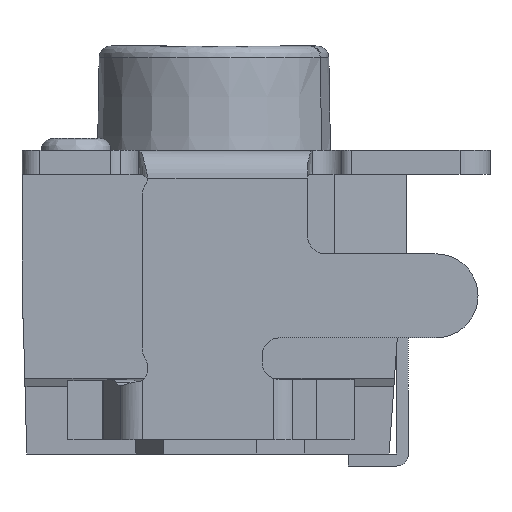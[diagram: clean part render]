
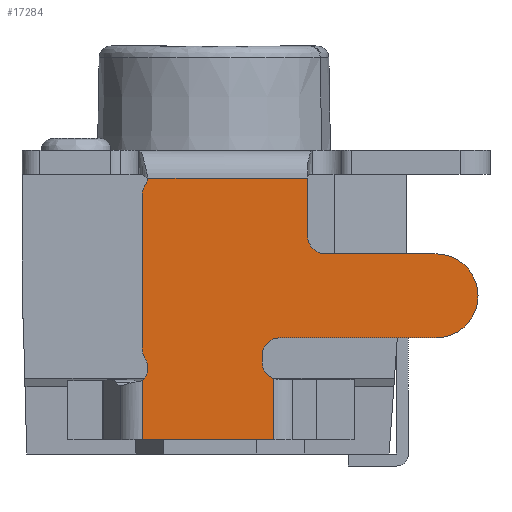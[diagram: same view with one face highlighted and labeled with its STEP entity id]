
A CAD part, left-side view. The second image highlights one B-rep face of the part: STEP entity #17284.
In plain terms, the highlighted planar face has unit normal (-1, 0, 0).
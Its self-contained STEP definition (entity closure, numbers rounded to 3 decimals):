
#155 = EDGE_CURVE ( 'NONE', #6565, #3358, #18055, .T. ) ;
#282 = LINE ( 'NONE', #4921, #12745 ) ;
#387 = AXIS2_PLACEMENT_3D ( 'NONE', #13754, #10978, #3204 ) ;
#509 = DIRECTION ( 'NONE',  ( 0., 0., -1. ) ) ;
#621 = ORIENTED_EDGE ( 'NONE', *, *, #4299, .F. ) ;
#743 = CARTESIAN_POINT ( 'NONE',  ( -2.25, -0.5, -1.762 ) ) ;
#782 = VECTOR ( 'NONE', #17943, 1000. ) ;
#949 = CARTESIAN_POINT ( 'NONE',  ( -2.25, 0.6, -0.378 ) ) ;
#1138 = VERTEX_POINT ( 'NONE', #7043 ) ;
#1298 = EDGE_CURVE ( 'NONE', #15928, #14122, #282, .T. ) ;
#1551 = DIRECTION ( 'NONE',  ( 1., 0., 0. ) ) ;
#1560 = EDGE_CURVE ( 'NONE', #1138, #2148, #19034, .T. ) ;
#1585 = CARTESIAN_POINT ( 'NONE',  ( -2.25, 1.368, -0.23 ) ) ;
#1771 = DIRECTION ( 'NONE',  ( 0., 0., -1. ) ) ;
#1906 = VERTEX_POINT ( 'NONE', #12778 ) ;
#2012 = DIRECTION ( 'NONE',  ( 0., 0., -1. ) ) ;
#2148 = VERTEX_POINT ( 'NONE', #6851 ) ;
#2194 = CARTESIAN_POINT ( 'NONE',  ( -2.25, -0.55, -1.712 ) ) ;
#2237 = CARTESIAN_POINT ( 'NONE',  ( -2.25, -0.55, -1.562 ) ) ;
#2294 = DIRECTION ( 'NONE',  ( 1., 0., 0. ) ) ;
#2421 = VECTOR ( 'NONE', #16162, 1000. ) ;
#2486 = EDGE_CURVE ( 'NONE', #1906, #3358, #16271, .T. ) ;
#2533 = AXIS2_PLACEMENT_3D ( 'NONE', #8309, #5150, #509 ) ;
#2593 = DIRECTION ( 'NONE',  ( 1., 0., 0. ) ) ;
#2663 = CARTESIAN_POINT ( 'NONE',  ( -2.25, 0.575, -0.295 ) ) ;
#2973 = LINE ( 'NONE', #1585, #18529 ) ;
#3065 = DIRECTION ( 'NONE',  ( 0., 0., -1. ) ) ;
#3204 = DIRECTION ( 'NONE',  ( 0., 0., -1. ) ) ;
#3358 = VERTEX_POINT ( 'NONE', #6027 ) ;
#3442 = EDGE_CURVE ( 'NONE', #16659, #15201, #7381, .T. ) ;
#3596 = VECTOR ( 'NONE', #3065, 1000. ) ;
#3706 = CARTESIAN_POINT ( 'NONE',  ( -2.25, -0.78, -0.23 ) ) ;
#3774 = VERTEX_POINT ( 'NONE', #4394 ) ;
#3858 = DIRECTION ( 'NONE',  ( 0., 0., -1. ) ) ;
#3961 = EDGE_CURVE ( 'NONE', #4811, #12966, #17868, .T. ) ;
#4061 = DIRECTION ( 'NONE',  ( 0., 0., -1. ) ) ;
#4225 = CARTESIAN_POINT ( 'NONE',  ( -2.25, -2.2, -0.862 ) ) ;
#4251 = DIRECTION ( 'NONE',  ( 1., 0., 0. ) ) ;
#4256 = CARTESIAN_POINT ( 'NONE',  ( -2.25, -0.55, -1.762 ) ) ;
#4299 = EDGE_CURVE ( 'NONE', #4811, #15556, #4584, .T. ) ;
#4362 = EDGE_CURVE ( 'NONE', #6565, #3774, #17906, .T. ) ;
#4394 = CARTESIAN_POINT ( 'NONE',  ( -2.25, -0.55, -1.562 ) ) ;
#4533 = CARTESIAN_POINT ( 'NONE',  ( -2.25, -0.4, -1.762 ) ) ;
#4584 = CIRCLE ( 'NONE', #7118, 0.15 ) ;
#4804 = VERTEX_POINT ( 'NONE', #2663 ) ;
#4811 = VERTEX_POINT ( 'NONE', #8673 ) ;
#4921 = CARTESIAN_POINT ( 'NONE',  ( -2.25, -0.78, -0.712 ) ) ;
#4923 = CIRCLE ( 'NONE', #15951, 0.15 ) ;
#4994 = DIRECTION ( 'NONE',  ( 0., 0., -1. ) ) ;
#5126 = VECTOR ( 'NONE', #15837, 1000. ) ;
#5150 = DIRECTION ( 'NONE',  ( 1., 0., 0. ) ) ;
#5295 = EDGE_CURVE ( 'NONE', #16509, #4804, #7826, .T. ) ;
#5378 = EDGE_CURVE ( 'NONE', #16509, #15928, #2973, .T. ) ;
#5516 = ORIENTED_EDGE ( 'NONE', *, *, #5295, .T. ) ;
#5888 = VECTOR ( 'NONE', #9185, 1000. ) ;
#5993 = PLANE ( 'NONE',  #12197 ) ;
#6027 = CARTESIAN_POINT ( 'NONE',  ( -2.25, -0.4, -1.762 ) ) ;
#6081 = ORIENTED_EDGE ( 'NONE', *, *, #3961, .T. ) ;
#6157 = VERTEX_POINT ( 'NONE', #13763 ) ;
#6244 = ORIENTED_EDGE ( 'NONE', *, *, #7113, .T. ) ;
#6565 = VERTEX_POINT ( 'NONE', #11150 ) ;
#6728 = CARTESIAN_POINT ( 'NONE',  ( -2.25, 0.7, -0.212 ) ) ;
#6851 = CARTESIAN_POINT ( 'NONE',  ( -2.25, -1.85, -0.862 ) ) ;
#6964 = LINE ( 'NONE', #2237, #5126 ) ;
#7018 = ORIENTED_EDGE ( 'NONE', *, *, #155, .F. ) ;
#7043 = CARTESIAN_POINT ( 'NONE',  ( -2.25, -0.93, -0.862 ) ) ;
#7113 = EDGE_CURVE ( 'NONE', #1138, #14122, #8181, .T. ) ;
#7118 = AXIS2_PLACEMENT_3D ( 'NONE', #18860, #2294, #3858 ) ;
#7381 = LINE ( 'NONE', #12997, #2421 ) ;
#7826 = CIRCLE ( 'NONE', #13179, 0.15 ) ;
#7872 = ORIENTED_EDGE ( 'NONE', *, *, #3442, .F. ) ;
#7931 = ORIENTED_EDGE ( 'NONE', *, *, #15916, .F. ) ;
#7945 = ORIENTED_EDGE ( 'NONE', *, *, #1560, .F. ) ;
#8181 = CIRCLE ( 'NONE', #2533, 0.15 ) ;
#8206 = DIRECTION ( 'NONE',  ( 1., 0., 0. ) ) ;
#8309 = CARTESIAN_POINT ( 'NONE',  ( -2.25, -0.93, -0.712 ) ) ;
#8518 = ORIENTED_EDGE ( 'NONE', *, *, #12142, .F. ) ;
#8571 = FACE_OUTER_BOUND ( 'NONE', #11061, .T. ) ;
#8673 = CARTESIAN_POINT ( 'NONE',  ( -2.25, 0.575, -1.729 ) ) ;
#8700 = DIRECTION ( 'NONE',  ( 1., 0., 0. ) ) ;
#9185 = DIRECTION ( 'NONE',  ( 0., 0., 1. ) ) ;
#9304 = CARTESIAN_POINT ( 'NONE',  ( -2.25, 0.7, -1.812 ) ) ;
#9691 = DIRECTION ( 'NONE',  ( 1., 0., 0. ) ) ;
#9721 = CARTESIAN_POINT ( 'NONE',  ( -2.25, 0.594, -1.919 ) ) ;
#9971 = DIRECTION ( 'NONE',  ( 0., 0., -1. ) ) ;
#10734 = CARTESIAN_POINT ( 'NONE',  ( -2.25, 0.6, -1.647 ) ) ;
#10975 = CARTESIAN_POINT ( 'NONE',  ( -2.25, -1.85, -1.562 ) ) ;
#10978 = DIRECTION ( 'NONE',  ( 1., 0., 0. ) ) ;
#11061 = EDGE_LOOP ( 'NONE', ( #16531, #5516, #13498, #15441, #621, #6081, #19328, #7872, #7931, #13796, #7018, #13212, #18139, #8518, #7945, #6244, #14187 ) ) ;
#11150 = CARTESIAN_POINT ( 'NONE',  ( -2.25, -0.4, -1.712 ) ) ;
#11744 = DIRECTION ( 'NONE',  ( 0., -1., 0. ) ) ;
#11810 = CARTESIAN_POINT ( 'NONE',  ( -2.25, -0.55, -1.762 ) ) ;
#11886 = EDGE_CURVE ( 'NONE', #19471, #3774, #6964, .T. ) ;
#12142 = EDGE_CURVE ( 'NONE', #2148, #19471, #18685, .T. ) ;
#12197 = AXIS2_PLACEMENT_3D ( 'NONE', #11810, #1551, #16546 ) ;
#12726 = DIRECTION ( 'NONE',  ( 0., 0., -1. ) ) ;
#12745 = VECTOR ( 'NONE', #1771, 1000. ) ;
#12778 = CARTESIAN_POINT ( 'NONE',  ( -2.25, -0.5, -1.904 ) ) ;
#12875 = LINE ( 'NONE', #949, #17385 ) ;
#12886 = EDGE_CURVE ( 'NONE', #15556, #6157, #12875, .T. ) ;
#12966 = VERTEX_POINT ( 'NONE', #9721 ) ;
#12997 = CARTESIAN_POINT ( 'NONE',  ( -2.25, 1.4, -2.412 ) ) ;
#13075 = DIRECTION ( 'NONE',  ( 0., 0., 1. ) ) ;
#13179 = AXIS2_PLACEMENT_3D ( 'NONE', #6728, #2593, #19062 ) ;
#13212 = ORIENTED_EDGE ( 'NONE', *, *, #4362, .T. ) ;
#13422 = AXIS2_PLACEMENT_3D ( 'NONE', #4256, #8700, #9971 ) ;
#13498 = ORIENTED_EDGE ( 'NONE', *, *, #16377, .F. ) ;
#13732 = CARTESIAN_POINT ( 'NONE',  ( -2.25, 0.594, -1.762 ) ) ;
#13754 = CARTESIAN_POINT ( 'NONE',  ( -2.25, -1.85, -1.212 ) ) ;
#13763 = CARTESIAN_POINT ( 'NONE',  ( -2.25, 0.6, -0.378 ) ) ;
#13796 = ORIENTED_EDGE ( 'NONE', *, *, #2486, .T. ) ;
#13925 = CARTESIAN_POINT ( 'NONE',  ( -2.25, 0.594, -2.412 ) ) ;
#14122 = VERTEX_POINT ( 'NONE', #17172 ) ;
#14187 = ORIENTED_EDGE ( 'NONE', *, *, #1298, .F. ) ;
#14713 = VECTOR ( 'NONE', #4994, 1000. ) ;
#15029 = AXIS2_PLACEMENT_3D ( 'NONE', #9304, #9691, #2012 ) ;
#15054 = AXIS2_PLACEMENT_3D ( 'NONE', #2194, #8206, #12726 ) ;
#15201 = VERTEX_POINT ( 'NONE', #13925 ) ;
#15441 = ORIENTED_EDGE ( 'NONE', *, *, #12886, .F. ) ;
#15556 = VERTEX_POINT ( 'NONE', #10734 ) ;
#15837 = DIRECTION ( 'NONE',  ( 0., 1., 0. ) ) ;
#15916 = EDGE_CURVE ( 'NONE', #1906, #16659, #17325, .T. ) ;
#15928 = VERTEX_POINT ( 'NONE', #3706 ) ;
#15951 = AXIS2_PLACEMENT_3D ( 'NONE', #17774, #4251, #4061 ) ;
#16162 = DIRECTION ( 'NONE',  ( 0., 1., 0. ) ) ;
#16271 = CIRCLE ( 'NONE', #13422, 0.15 ) ;
#16377 = EDGE_CURVE ( 'NONE', #6157, #4804, #4923, .T. ) ;
#16497 = LINE ( 'NONE', #13732, #5888 ) ;
#16503 = EDGE_CURVE ( 'NONE', #15201, #12966, #16497, .T. ) ;
#16509 = VERTEX_POINT ( 'NONE', #17892 ) ;
#16531 = ORIENTED_EDGE ( 'NONE', *, *, #5378, .F. ) ;
#16546 = DIRECTION ( 'NONE',  ( 0., 0., 1. ) ) ;
#16659 = VERTEX_POINT ( 'NONE', #18757 ) ;
#17172 = CARTESIAN_POINT ( 'NONE',  ( -2.25, -0.78, -0.712 ) ) ;
#17284 = ADVANCED_FACE ( 'NONE', ( #8571 ), #5993, .F. ) ;
#17325 = LINE ( 'NONE', #743, #14713 ) ;
#17385 = VECTOR ( 'NONE', #13075, 1000. ) ;
#17774 = CARTESIAN_POINT ( 'NONE',  ( -2.25, 0.45, -0.378 ) ) ;
#17868 = CIRCLE ( 'NONE', #15029, 0.15 ) ;
#17892 = CARTESIAN_POINT ( 'NONE',  ( -2.25, 0.551, -0.23 ) ) ;
#17906 = CIRCLE ( 'NONE', #15054, 0.15 ) ;
#17943 = DIRECTION ( 'NONE',  ( 0., -1., 0. ) ) ;
#18055 = LINE ( 'NONE', #4533, #3596 ) ;
#18139 = ORIENTED_EDGE ( 'NONE', *, *, #11886, .F. ) ;
#18529 = VECTOR ( 'NONE', #11744, 1000. ) ;
#18685 = CIRCLE ( 'NONE', #387, 0.35 ) ;
#18757 = CARTESIAN_POINT ( 'NONE',  ( -2.25, -0.5, -2.412 ) ) ;
#18860 = CARTESIAN_POINT ( 'NONE',  ( -2.25, 0.45, -1.647 ) ) ;
#19034 = LINE ( 'NONE', #4225, #782 ) ;
#19062 = DIRECTION ( 'NONE',  ( 0., 0., -1. ) ) ;
#19328 = ORIENTED_EDGE ( 'NONE', *, *, #16503, .F. ) ;
#19471 = VERTEX_POINT ( 'NONE', #10975 ) ;
